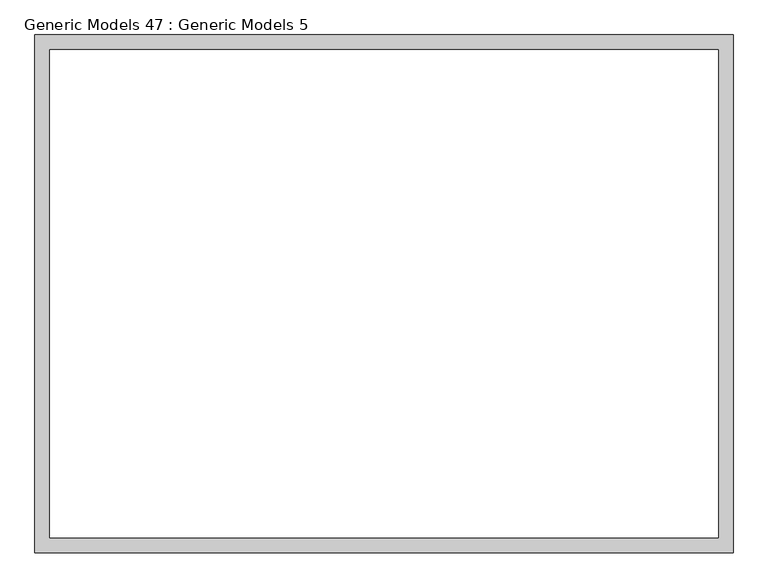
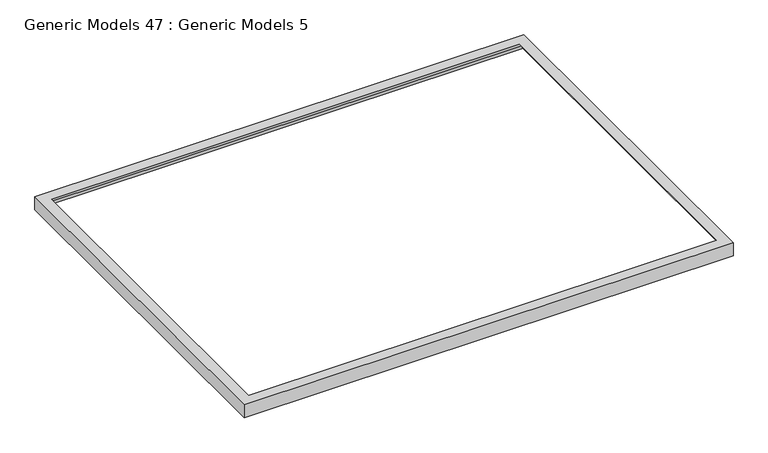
"""IFC4 building model written with IfcOpenShell, lengths in millimetres: proxy geometry, Generic Models 47 : Generic Models 5."""

import ifcopenshell
import ifcopenshell.guid

model = None  # the IFC model being written
_history = None  # IfcOwnerHistory: only IFC2X3 demands one
_inside = {}  # id of a spatial element -> (the spatial element, [elements in it])
_under = {}  # id of a project, library or spatial element -> (it, [spatial elements below it])
_declared = {}  # id of a project -> (the project, [libraries it declares])
_typed = {}  # id of a type object -> (the type object, [elements of that type])
_made_of = {}  # id of a material, layer set ... -> (it, [elements and type objects made of it])


def new_model(schema):
    """Start an empty IFC model of exactly this schema.

    Asked for "IFC4X3", IfcOpenShell would pick the latest addendum, in which some entities
    have other attributes; the version numbers below select the first issue.
    IFC2X3 requires an IfcOwnerHistory on every rooted entity: one is made here for all.
    """
    global model, _history
    if schema == "IFC4X3":
        model = ifcopenshell.file(schema_version=(4, 3, 0, 0))
    else:
        model = ifcopenshell.file(schema=schema)
    _inside.clear()
    _under.clear()
    _declared.clear()
    _typed.clear()
    _made_of.clear()
    _history = None
    if model.schema == "IFC2X3":
        org = make("IfcOrganization", Name="unknown")
        user = make(
            "IfcPersonAndOrganization",
            ThePerson=make("IfcPerson", FamilyName="unknown"),
            TheOrganization=org,
        )
        app = make(
            "IfcApplication",
            ApplicationDeveloper=org,
            Version="unknown",
            ApplicationFullName="unknown",
            ApplicationIdentifier="unknown",
        )
        _history = make(
            "IfcOwnerHistory",
            OwningUser=user,
            OwningApplication=app,
            ChangeAction="ADDED",
            CreationDate=0,
        )
    return model


def make(cls, **values):
    """One entity of the class cls with the attributes given. An attribute that is None is left unset."""
    return model.create_entity(
        cls, **{name: value for name, value in values.items() if value is not None}
    )


def rooted(cls, **values):
    """An entity with a GlobalId (a new one), such as an element, a storey or a relation."""
    return make(cls, GlobalId=ifcopenshell.guid.new(), OwnerHistory=_history, **values)


def si_unit(unit_type, name, prefix=None):
    """IfcSIUnit, for example si_unit("LENGTHUNIT", "METRE", prefix="MILLI")."""
    return make("IfcSIUnit", UnitType=unit_type, Prefix=prefix, Name=name)


def assignment(units):
    """IfcUnitAssignment: the units of a project."""
    return None if units is None else make("IfcUnitAssignment", Units=units)


def point(xyz):
    """IfcCartesianPoint."""
    return None if xyz is None else make("IfcCartesianPoint", Coordinates=xyz)


def direction(xyz):
    """IfcDirection."""
    return None if xyz is None else make("IfcDirection", DirectionRatios=xyz)


def frame(location, z_axis=None, x_axis=None):
    """IfcAxis2Placement3D, a coordinate frame: its origin and axes. An axis left out is left unset."""
    return make(
        "IfcAxis2Placement3D",
        Location=point(location),
        Axis=direction(z_axis),
        RefDirection=direction(x_axis),
    )


def origin():
    """The frame at (0, 0, 0) with its axes left unset."""
    return frame((0.0, 0.0, 0.0))


def place(relative_to, where):
    """IfcLocalPlacement: puts the frame where relative to a parent placement (None: the world)."""
    return make(
        "IfcLocalPlacement", PlacementRelTo=relative_to, RelativePlacement=where
    )


def context(
    kind, dimensions, precision=None, world=None, true_north=None, identifier=None
):
    """IfcGeometricRepresentationContext, for example the 3D "Model" context."""
    return make(
        "IfcGeometricRepresentationContext",
        ContextIdentifier=identifier,
        ContextType=kind,
        CoordinateSpaceDimension=dimensions,
        Precision=precision,
        WorldCoordinateSystem=world,
        TrueNorth=true_north,
    )


def project(units=None, contexts=None):
    """IfcProject with its units and contexts."""
    return rooted(
        "IfcProject",
        Name="project",
        RepresentationContexts=contexts,
        UnitsInContext=assignment(units),
    )


def spatial(cls, under=None, at=None, **own):
    """A site, building, storey or space (cls), placed at a placement, below another one or the project."""
    s = rooted(cls, ObjectPlacement=at, **own)
    if under is not None:
        _under.setdefault(under.id(), (under, []))[1].append(s)
    return s


def polyline(points):
    """IfcPolyline through the points."""
    return make("IfcPolyline", Points=[point(p) for p in points])


def ellipse_curve(where, semi_axis1, semi_axis2):
    """IfcEllipse in the frame where."""
    return make(
        "IfcEllipse", Position=where, SemiAxis1=semi_axis1, SemiAxis2=semi_axis2
    )


def shape(context_of_items, identifier, shape_type, items):
    """IfcShapeRepresentation: the items that make up one representation, for example the "Body"."""
    return make(
        "IfcShapeRepresentation",
        ContextOfItems=context_of_items,
        RepresentationIdentifier=identifier,
        RepresentationType=shape_type,
        Items=items,
    )


def source(mapping_origin, context_of_items, identifier, shape_type, items):
    """IfcRepresentationMap: a shape defined once, which mapped items show again and again."""
    return make(
        "IfcRepresentationMap",
        MappingOrigin=mapping_origin,
        MappedRepresentation=shape(context_of_items, identifier, shape_type, items),
    )


def transform(
    local_origin,
    x_axis=None,
    y_axis=None,
    z_axis=None,
    scale=None,
    scale2=None,
    scale3=None,
    uniform=True,
):
    """IfcCartesianTransformationOperator3D, or its non-uniform kind. x_axis, y_axis, z_axis: its Axis1, 2, 3."""
    if uniform:
        return make(
            "IfcCartesianTransformationOperator3D",
            Axis1=direction(x_axis),
            Axis2=direction(y_axis),
            LocalOrigin=point(local_origin),
            Scale=scale,
            Axis3=direction(z_axis),
        )
    return make(
        "IfcCartesianTransformationOperator3DnonUniform",
        Axis1=direction(x_axis),
        Axis2=direction(y_axis),
        LocalOrigin=point(local_origin),
        Scale=scale,
        Axis3=direction(z_axis),
        Scale2=scale2,
        Scale3=scale3,
    )


def mapped(mapping_source, mapping_target):
    """IfcMappedItem: shows the shape of a source again, moved by a transform."""
    return make(
        "IfcMappedItem", MappingSource=mapping_source, MappingTarget=mapping_target
    )


def made_of(thing, what):
    """Note that an element or type object is made of a material, layer set ...; save() writes the relation."""
    if what is not None:
        _made_of.setdefault(what.id(), (what, []))[1].append(thing)
    return thing


def element(
    cls,
    number,
    at=None,
    inside=None,
    cuts=None,
    type_object=None,
    material=None,
    context=None,
    identifier="Body",
    shape_type=None,
    held_by="IfcProductDefinitionShape",
    body=None,
    shapes=None,
    **own,
):
    """One element of the class cls, such as IfcWall. Its Tag is "e" and its number.

    at: its placement. inside: the storey or other place that contains it. cuts: it is an
    opening in that element (IfcRelVoidsElement). A single representation is given by context,
    identifier, shape_type and body (its items); several are given by shapes. held_by: the class
    of the entity that holds the representations. save() writes the other relations.
    """
    e = rooted(cls, Tag="e%d" % number, ObjectPlacement=at, **own)
    if body is not None:
        shapes = [shape(context, identifier, shape_type, body)]
    if shapes is not None:
        e.Representation = make(held_by, Representations=shapes)
    if inside is not None:
        _inside.setdefault(inside.id(), (inside, []))[1].append(e)
    if cuts is not None:
        rooted(
            "IfcRelVoidsElement", RelatingBuildingElement=cuts, RelatedOpeningElement=e
        )
    if type_object is not None:
        _typed.setdefault(type_object.id(), (type_object, []))[1].append(e)
    return made_of(e, material)


def aggregate(whole, parts):
    """IfcRelAggregates: a whole, such as a stair, and the parts it consists of."""
    return rooted("IfcRelAggregates", RelatingObject=whole, RelatedObjects=parts)


def save(model, path):
    """Write the relations noted so far, then the file.

    IfcRelAggregates (storeys below a building ...), IfcRelContainedInSpatialStructure (elements
    in a storey), IfcRelDefinesByType, IfcRelAssociatesMaterial and IfcRelDeclares: one each for
    every whole, place, type object, material and project.
    """
    for whole, parts in _under.values():
        aggregate(whole, parts)
    for where, things in _inside.values():
        rooted(
            "IfcRelContainedInSpatialStructure",
            RelatedElements=things,
            RelatingStructure=where,
        )
    for kind, things in _typed.values():
        rooted("IfcRelDefinesByType", RelatedObjects=things, RelatingType=kind)
    for what, things in _made_of.values():
        rooted("IfcRelAssociatesMaterial", RelatedObjects=things, RelatingMaterial=what)
    for by, libraries in _declared.values():
        rooted("IfcRelDeclares", RelatingContext=by, RelatedDefinitions=libraries)
    model.write(path)


def plane_surface(at):
    """IfcPlane: the flat surface through the origin of the frame at, square to its z axis."""
    return make("IfcPlane", Position=at)


def cylinder_surface(at, radius):
    """IfcCylindricalSurface: all points at the distance radius from the z axis of the frame at."""
    return make("IfcCylindricalSurface", Position=at, Radius=radius)


def revolved_surface(curve, axis_point, axis_direction):
    """IfcSurfaceOfRevolution: the curve turned about the line through axis_point along axis_direction."""
    return make(
        "IfcSurfaceOfRevolution",
        SweptCurve=make("IfcArbitraryOpenProfileDef", ProfileType="CURVE", Curve=curve),
        AxisPosition=make("IfcAxis1Placement", Location=point(axis_point), Axis=direction(axis_direction)),
    )


def advanced_brep(points, edges, surfaces, faces):
    """IfcAdvancedBrep: a solid bounded by faces that lie on surfaces and meet in shared edges.

    An edge is (start, end): straight between two places in points (the first is 0);
    or (start, end, curve); or (start, end, curve, False) where it runs against its curve.
    A face is (place in surfaces, loops), or (place, loops, False) where it looks against
    its surface's normal. A loop lists edges by number (the first is 1), with a minus sign
    where the edge is run from its end to its start. The first loop is the outer one.
    """
    corners = [point(p) for p in points]
    vertices = [make("IfcVertexPoint", VertexGeometry=c) for c in corners]
    made = []
    for start, end, *more in edges:
        made.append(
            make(
                "IfcEdgeCurve",
                EdgeStart=vertices[start],
                EdgeEnd=vertices[end],
                EdgeGeometry=more[0] if more else make("IfcPolyline", Points=[corners[start], corners[end]]),
                SameSense=more[1] if len(more) > 1 else True,
            )
        )
    hull = []
    for where, loops, *sense in faces:
        bounds = []
        for j, loop in enumerate(loops):
            ring = [make("IfcOrientedEdge", EdgeElement=made[abs(k) - 1], Orientation=k > 0) for k in loop]
            bounds.append(
                make(
                    "IfcFaceOuterBound" if j == 0 else "IfcFaceBound",
                    Bound=make("IfcEdgeLoop", EdgeList=ring),
                    Orientation=True,
                )
            )
        hull.append(make("IfcAdvancedFace", Bounds=bounds, FaceSurface=surfaces[where], SameSense=sense[0] if sense else True))
    return make("IfcAdvancedBrep", Outer=make("IfcClosedShell", CfsFaces=hull))


def generic_models_47_generic_models_5_366e64f6(model_context):
    return source(origin(), model_context, "Body", "AdvancedBrep", [
        advanced_brep(
        [(10706.1, 8458.2, 7848.6), (10658.7512652, 8410.8512652, 7916.2210013), (6232.2487339, 8410.8512652, 7916.2210013), (6184.8999991, 8458.2, 7848.6), (6232.2487339, 5152.7488375, 7916.2210013), (6184.8999991, 5105.4001027, 7848.6), (10658.7512652, 5152.7488375, 7916.2210013), (10706.1, 5105.4001027, 7848.6), (10608.6809069, 5202.8191958, 7975.6), (10608.6809069, 8360.7809069, 7975.6), (6282.3190922, 8360.7809069, 7975.6), (6282.3190922, 5202.8191958, 7975.6), (10706.1, 8458.2, 7975.6), (6184.8999991, 8458.2, 7975.6), (6184.8999991, 5105.4001027, 7975.6), (10706.1, 5105.4001027, 7975.6)],
        [
            (0, 1, ellipse_curve(frame((10761.2626826, 8513.3626826, 7937.6127973), z_axis=(-0.7071067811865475, 0.7071067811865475, 0.0), x_axis=(0.7071067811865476, 0.7071067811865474, 0.0)), 148.0959124, 104.7196239)),
            (1, 2),
            (2, 3, ellipse_curve(frame((6129.7373165, 8513.3626826, 7937.6127973), z_axis=(0.7071067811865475, 0.7071067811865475, 0.0), x_axis=(0.7071067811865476, -0.7071067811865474, 0.0)), 148.0959124, 104.7196239)),
            (3, 0),
            (2, 4),
            (4, 5, ellipse_curve(frame((6129.7373165, 5050.2374201, 7937.6127973), z_axis=(-0.7071067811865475, 0.7071067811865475, 0.0), x_axis=(0.7071067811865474, 0.7071067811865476, 0.0)), 148.0959124, 104.7196239)),
            (5, 3),
            (4, 6),
            (6, 7, ellipse_curve(frame((10761.2626826, 5050.2374201, 7937.6127973), z_axis=(-0.7071067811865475, -0.7071067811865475, 0.0), x_axis=(-0.7071067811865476, 0.7071067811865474, 0.0)), 148.0959124, 104.7196239)),
            (7, 5),
            (6, 1),
            (0, 7),
            (6, 8, ellipse_curve(frame((10608.6809069, 5202.8191958, 7924.8), z_axis=(-0.7071067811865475, -0.7071067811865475, 0.0), x_axis=(-0.7071067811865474, 0.7071067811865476, 0.0)), 71.842049, 50.8)),
            (8, 9),
            (9, 1, ellipse_curve(frame((10608.6809069, 8360.7809069, 7924.8), z_axis=(-0.7071067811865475, 0.7071067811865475, 0.0), x_axis=(0.7071067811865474, 0.7071067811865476, 0.0)), 71.842049, 50.8)),
            (9, 10),
            (10, 2, ellipse_curve(frame((6282.3190922, 8360.7809069, 7924.8), z_axis=(-0.7071067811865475, -0.7071067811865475, 0.0), x_axis=(-0.7071067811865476, 0.7071067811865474, 0.0)), 71.842049, 50.8)),
            (10, 11),
            (11, 4, ellipse_curve(frame((6282.3190922, 5202.8191958, 7924.8), z_axis=(0.7071067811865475, -0.7071067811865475, 0.0), x_axis=(-0.7071067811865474, -0.7071067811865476, 0.0)), 71.842049, 50.8)),
            (11, 8),
            (12, 0),
            (3, 13),
            (13, 12),
            (5, 14),
            (14, 13),
            (7, 15),
            (15, 14),
            (12, 15),
        ],
        [
            cylinder_surface(frame((10706.1, 8513.3626826, 7937.6127973), z_axis=(1.0, 0.0, 0.0), x_axis=(0.0, -1.0, 0.0)), 104.7196239),
            cylinder_surface(frame((6129.7373165, 8458.2, 7937.6127973), z_axis=(0.0, 1.0, 0.0), x_axis=(1.0, 0.0, 0.0)), 104.7196239),
            cylinder_surface(frame((6184.8999991, 5050.2374201, 7937.6127973), z_axis=(-1.0, 0.0, 0.0), x_axis=(0.0, 1.0, 0.0)), 104.7196239),
            cylinder_surface(frame((10761.2626826, 5105.4001027, 7937.6127973), z_axis=(0.0, -1.0, 0.0), x_axis=(-1.0, 0.0, 0.0)), 104.7196239),
            revolved_surface(polyline([(10557.8809069, 8411.580906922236, 7924.8), (10557.8809069, 5152.019195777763, 7924.8)]), (10608.6809069, 5105.4001027, 7924.8), (0.0, 1.0, 0.0)),
            revolved_surface(polyline([(6231.519092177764, 8309.9809069, 7924.8), (10659.480906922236, 8309.9809069, 7924.8)]), (10706.1, 8360.7809069, 7924.8), (-1.0, 0.0, 0.0)),
            revolved_surface(polyline([(6333.1190922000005, 5152.019195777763, 7924.8), (6333.1190922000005, 8411.580906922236, 7924.8)]), (6282.3190922, 8458.2, 7924.8), (0.0, -1.0, 0.0)),
            revolved_surface(polyline([(10659.480906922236, 5253.6191958, 7924.8), (6231.519092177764, 5253.6191958, 7924.8)]), (6184.8999991, 5202.8191958, 7924.8), (1.0, 0.0, 0.0)),
            plane_surface(frame((10706.1, 8458.2, 7848.6), z_axis=(0.0, 1.0, 0.0), x_axis=(-1.0, 0.0, 0.0))),
            plane_surface(frame((6184.8999991, 8458.2, 7848.6), z_axis=(-1.0, 0.0, 0.0), x_axis=(0.0, -1.0, 0.0))),
            plane_surface(frame((6184.8999991, 5105.4001027, 7848.6), z_axis=(0.0, -1.0, 0.0), x_axis=(1.0, 0.0, 0.0))),
            plane_surface(frame((10706.1, 5105.4001027, 7848.6), z_axis=(1.0, 0.0, 0.0), x_axis=(0.0, 1.0, 0.0))),
            plane_surface(frame((10706.1, 5105.4001027, 7975.6), z_axis=(0.0, 0.0, 1.0), x_axis=(0.0, 1.0, 0.0))),
        ],
        [
            (0, [[1, 2, 3, 4]]),
            (1, [[-3, 5, 6, 7]]),
            (2, [[-6, 8, 9, 10]]),
            (3, [[-9, 11, -1, 12]]),
            (4, [[13, 14, 15, -11]]),
            (5, [[-15, 16, 17, -2]]),
            (6, [[-17, 18, 19, -5]]),
            (7, [[-19, 20, -13, -8]]),
            (8, [[21, -4, 22, 23]]),
            (9, [[-22, -7, 24, 25]]),
            (10, [[-24, -10, 26, 27]]),
            (11, [[-26, -12, -21, 28]]),
            (12, [[-25, -27, -28, -23], [-14, -20, -18, -16]]),
        ],
    ),
    ])


if __name__ == "__main__":
    model = new_model("IFC4")
    model_context = context("Model", 3, world=origin())
    ifc_project = project(units=[si_unit("LENGTHUNIT", "METRE", prefix="MILLI")], contexts=[model_context])
    site = spatial("IfcSite", under=ifc_project)
    building = spatial("IfcBuilding", under=site)
    placement = place(None, origin())
    generic_models_47_generic_models_5_shape = generic_models_47_generic_models_5_366e64f6(model_context)
    element("IfcBuildingElementProxy", 1, Name="Generic Models 47 : Generic Models 5", ObjectType="Generic Models 47 : Generic Models 5", at=placement, inside=building, context=model_context, shape_type="MappedRepresentation", body=[
        mapped(generic_models_47_generic_models_5_shape, transform((0.0, 0.0, 0.0), x_axis=(1.0, 0.0, 0.0), y_axis=(0.0, 1.0, 0.0), z_axis=(0.0, 0.0, 1.0))),
    ])
    save(model, "model.ifc")
